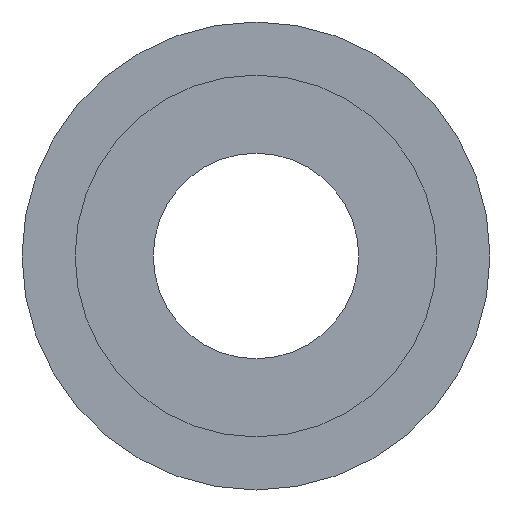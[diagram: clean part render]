
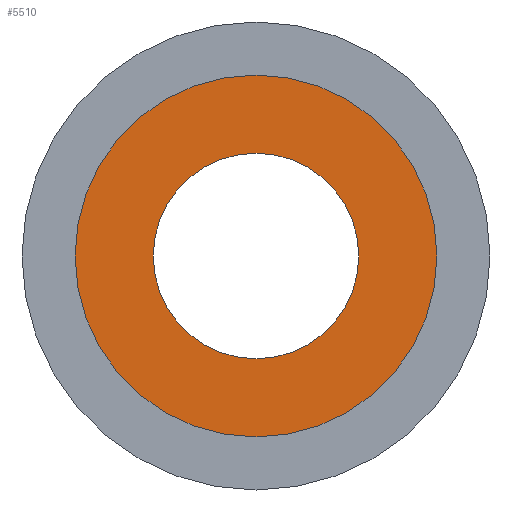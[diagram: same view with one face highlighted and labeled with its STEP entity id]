
A CAD part, left-side view. The second image highlights one B-rep face of the part: STEP entity #5510.
In plain terms, the highlighted planar face has unit normal (-1, 0, 0).
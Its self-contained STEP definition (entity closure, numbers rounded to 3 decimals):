
#1020=CARTESIAN_POINT('',(82.293,39.288,12.3));
#1030=VERTEX_POINT('',#1020);
#1080=CARTESIAN_POINT('',(82.293,39.288,
0.));
#1090=DIRECTION('',(1.,0.,0.));
#1100=DIRECTION('',(0.,0.,-1.));
#1110=AXIS2_PLACEMENT_3D('',#1080,#1090,#1100);
#1120=CIRCLE('',#1110,12.3);
#1130=CARTESIAN_POINT('',(82.293,39.288,-12.3));
#1140=VERTEX_POINT('',#1130);
#1150=EDGE_CURVE('',#1030,#1140,#1120,.T.);
#5260=CARTESIAN_POINT('',(82.293,12.713,
0.));
#5270=DIRECTION('',(1.,0.,-0.));
#5280=DIRECTION('',(0.,1.,0.));
#5290=AXIS2_PLACEMENT_3D('',#5260,#5270,#5280);
#5300=PLANE('',#5290);
#5310=EDGE_CURVE('',#1140,#1030,#1120,.T.);
#5320=ORIENTED_EDGE('',*,*,#5310,.T.);
#5330=ORIENTED_EDGE('',*,*,#1150,.T.);
#5340=EDGE_LOOP('',(#5330,#5320));
#5350=FACE_BOUND('',#5340,.T.);
#5360=CARTESIAN_POINT('',(82.293,39.288,
0.));
#5370=DIRECTION('',(1.,0.,0.));
#5380=DIRECTION('',(-0.,-1.,0.));
#5390=AXIS2_PLACEMENT_3D('',#5360,#5370,#5380);
#5400=CIRCLE('',#5390,21.65);
#5410=CARTESIAN_POINT('',(82.293,17.638,
0.));
#5420=VERTEX_POINT('',#5410);
#5430=CARTESIAN_POINT('',(82.293,60.938,
0.));
#5440=VERTEX_POINT('',#5430);
#5450=EDGE_CURVE('',#5420,#5440,#5400,.T.);
#5460=ORIENTED_EDGE('',*,*,#5450,.F.);
#5470=EDGE_CURVE('',#5440,#5420,#5400,.T.);
#5480=ORIENTED_EDGE('',*,*,#5470,.F.);
#5490=EDGE_LOOP('',(#5480,#5460));
#5500=FACE_OUTER_BOUND('',#5490,.T.);
#5510=ADVANCED_FACE('',(#5350,#5500),#5300,.F.);
